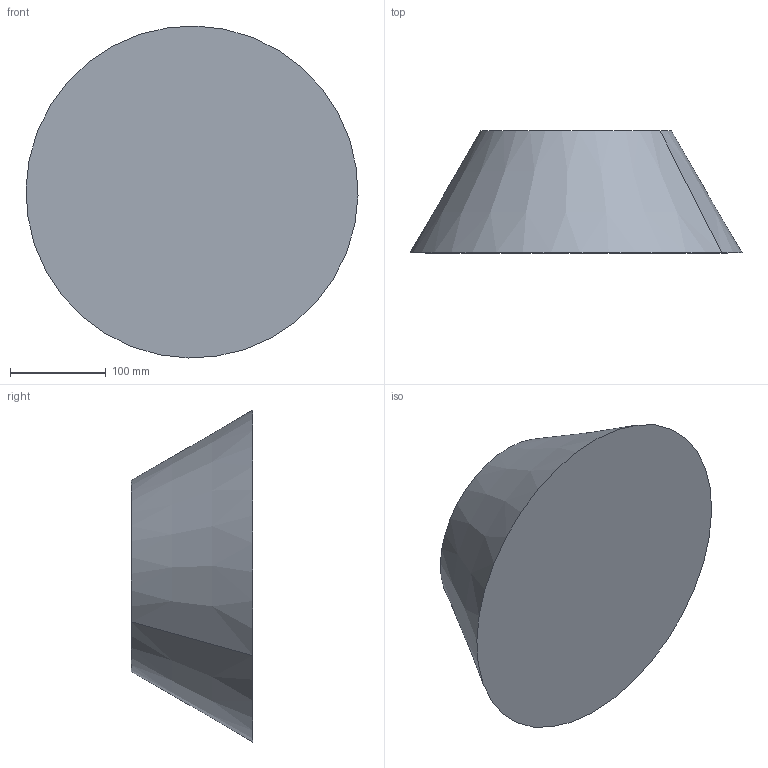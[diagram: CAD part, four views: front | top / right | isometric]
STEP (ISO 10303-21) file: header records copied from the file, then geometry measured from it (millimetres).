
FILE_DESCRIPTION(('CATIA V5 STEP Exchange'),'2;1');
FILE_NAME('C:\_Andres\UNIVERSIDAD\IQS\ASIGNATURAS\DAO\EXF\EXF-16172c\2inicio\Reyes_Carmenaty_Ej09_v27.stp','2017-03-05T22:13:14+00:00',('none'),('none'),'CATIA Version 5-6 Release 2014 SP1 HF18','CATIA V5 STEP AP203','none');
FILE_SCHEMA(('CONFIG_CONTROL_DESIGN'));
Length unit declared in the file: millimetre
Products named in the file (1): Reyes_Carmenaty_Ej09_v27
Bounding box: 345.9 x 127 x 345.9 mm (x, y, z)
Volume: 7587231.6 mm3; surface area: 253060.3 mm2
Topology: 1 solids, 2 shells, 8 faces, 12 edges, 8 vertices
Faces by surface type: plane 4, cone 2, cylinder 2
Entity records: 205 total; most frequent: CARTESIAN_POINT 27, DIRECTION 24, ORIENTED_EDGE 24, AXIS2_PLACEMENT_3D 15, EDGE_CURVE 12, ADVANCED_FACE 8, CIRCLE 8, EDGE_LOOP 8
